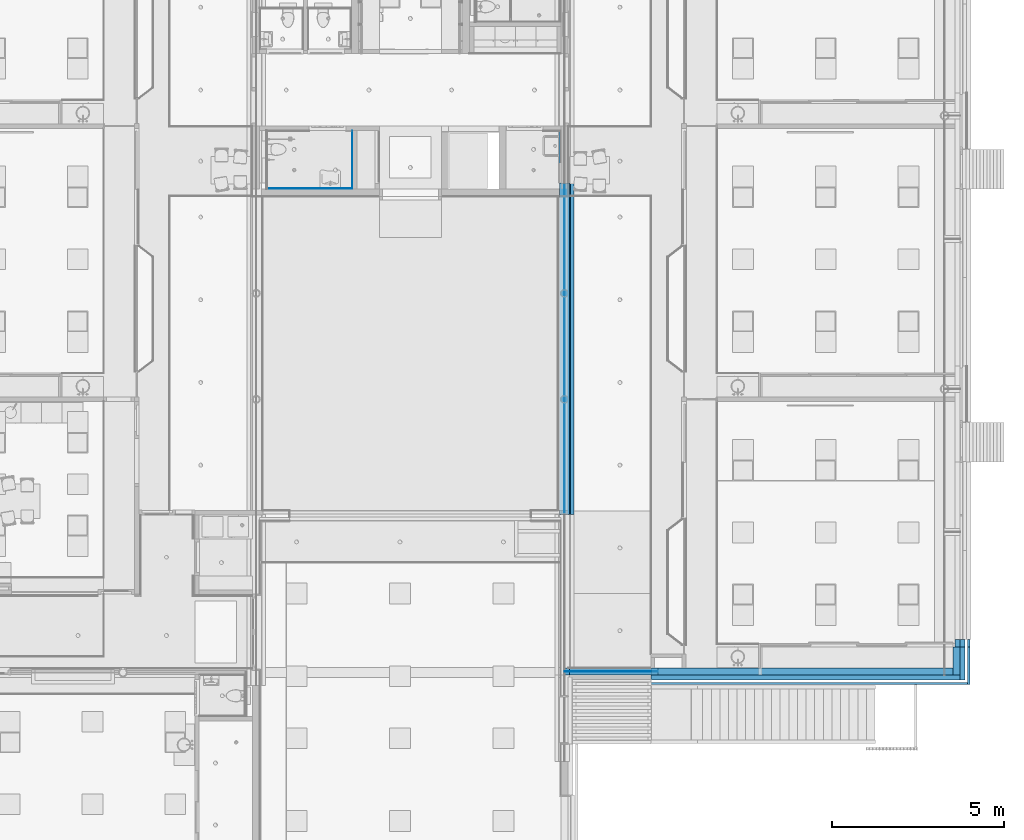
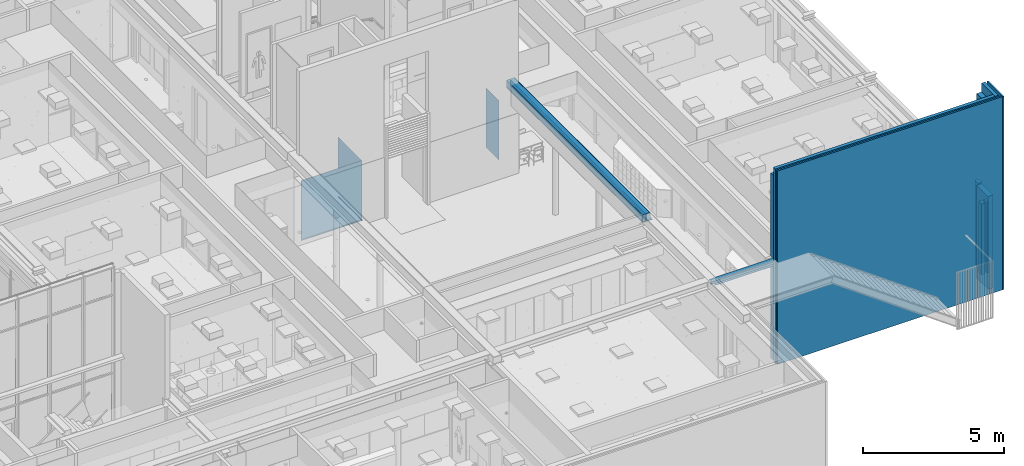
# One storey, part 117 of 347: 24 building element parts, 1 opening, 8 elements without a shape of their own.
"""IFC2X3 building model written with IfcOpenShell, lengths in millimetres."""

from ifc_helpers import new_model, entity, si_unit, converted_unit, derived_unit, money_unit, direction, frame, origin_with_axes, place, context, subcontext, project, spatial, faceted_brep, material, type_object, element, aggregate, save


model = new_model("IFC2X3")

# Units and contexts
model_context = context("Model", 3, precision=0.01, world=origin_with_axes(), true_north=direction((0.0, 1.0)))
plan_context = context("Plan", 3, precision=0.01, world=origin_with_axes(), true_north=direction((0.0, 1.0)))
body_context = subcontext(model_context, "Body", "Model", "MODEL_VIEW")
ifc_project = project(units=[si_unit("LENGTHUNIT", "METRE", prefix="MILLI"), si_unit("AREAUNIT", "SQUARE_METRE"), si_unit("VOLUMEUNIT", "CUBIC_METRE"), converted_unit("PLANEANGLEUNIT", "DEGREE", entity("IfcPlaneAngleMeasure", 0.0174532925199), si_unit("PLANEANGLEUNIT", "RADIAN"), dimensions=[0, 0, 0, 0, 0, 0, 0]), money_unit("EUR"), converted_unit("TIMEUNIT", "Year", entity("IfcTimeMeasure", 31556926.0), si_unit("TIMEUNIT", "SECOND"), dimensions=[0, 0, 1, 0, 0, 0, 0]), si_unit("MASSUNIT", "GRAM", prefix="KILO"), si_unit("THERMODYNAMICTEMPERATUREUNIT", "DEGREE_CELSIUS"), si_unit("LUMINOUSINTENSITYUNIT", "LUMEN"), si_unit("ENERGYUNIT", "JOULE", prefix="MEGA"), derived_unit("THERMALCONDUCTANCEUNIT", [(si_unit("POWERUNIT", "WATT"), 1), (si_unit("LENGTHUNIT", "METRE"), -1), (si_unit("THERMODYNAMICTEMPERATUREUNIT", "KELVIN"), -1)]), derived_unit("SPECIFICHEATCAPACITYUNIT", [(si_unit("ENERGYUNIT", "JOULE"), 1), (si_unit("MASSUNIT", "GRAM", prefix="KILO"), -1), (si_unit("THERMODYNAMICTEMPERATUREUNIT", "KELVIN"), -1)]), derived_unit("MASSDENSITYUNIT", [(si_unit("MASSUNIT", "GRAM", prefix="KILO"), 1), (si_unit("VOLUMEUNIT", "CUBIC_METRE"), -1)])], contexts=[model_context, plan_context])

# Site, building, storey
site_placement = place(None, origin_with_axes())
site = spatial("IfcSite", under=ifc_project, at=site_placement, Name="Site", CompositionType="ELEMENT")
building_placement = place(site_placement, origin_with_axes())
building = spatial("IfcBuilding", under=site, at=building_placement, Name="Naam gebouw", CompositionType="ELEMENT")
storey_placement = place(building_placement, origin_with_axes())
storey = spatial("IfcBuildingStorey", under=building, at=storey_placement, Name="begane grond", CompositionType="ELEMENT", Elevation=0.0)

# Proxy, building element parts
building_element_proxy_type = type_object("IfcBuildingElementProxyType", Name="wandtegels 150x300 2600+ 10 x 2600", PredefinedType="NOTDEFINED")
proxy_1_placement = place(storey_placement, frame((38385.0, 26170.0, 0.0), z_axis=(0.0, 0.0, 1.0), x_axis=(-1.0, 0.0, 0.0)))
proxy_1 = element("IfcBuildingElementProxy", 1, at=proxy_1_placement, inside=storey, type_object=building_element_proxy_type, Name="42_50 wandtegels keramisch")
ifc_material_1 = material(Name="48 vloeivloer Bolidt")
building_element_part_1_placement = place(proxy_1_placement, origin_with_axes())
building_element_part_1 = element("IfcBuildingElementPart", 2, at=building_element_part_1_placement, material=ifc_material_1, Name="48 vloeivloer Bolidt", context=body_context, shape_type="Brep", body=[
    faceted_brep([(-8.00001490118, 10.0000089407, 50.0000059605), (-8.00001490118, 8.00001490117, 50.0000059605), (2469.99999702, 8.00001490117, 50.0000059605), (2469.99999702, 10.0000089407, 50.0000059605), (-8.00001490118, 8.00001490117, 0.0), (-8.00001490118, 10.0000089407, 0.0), (2469.99999702, 8.00001490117, 0.0), (2469.99999702, 10.0000089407, 0.0)], [[[0, 1, 2, 3]], [[4, 1, 0, 5]], [[1, 4, 6, 2]], [[3, 2, 6, 7]], [[5, 0, 3, 7]], [[4, 5, 7, 6]]]),
])
ifc_material_2 = material(Name="Tegels - Wand")
building_element_part_2_placement = place(proxy_1_placement, origin_with_axes())
building_element_part_2 = element("IfcBuildingElementPart", 3, at=building_element_part_2_placement, material=ifc_material_2, Name="Tegels - Wand", context=body_context, shape_type="Brep", body=[
    faceted_brep([(0.0, 10.0, 2600.0), (0.0, 0.0, 2600.0), (2469.99999702, 0.0, 2600.0), (2469.99999702, 10.0, 2600.0), (0.0, 0.0, 50.0), (0.0, 10.0, 50.0), (0.0, 8.00001490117, 50.0), (2469.99999702, 0.0, 50.0000059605), (2469.99999702, 10.0, 50.0000059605), (2469.99999702, 8.00001490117, 50.0000059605)], [[[0, 1, 2, 3]], [[4, 1, 0, 5, 6]], [[1, 4, 7, 2]], [[8, 3, 2, 7, 9]], [[5, 0, 3, 8]], [[6, 5, 8, 9]], [[4, 6, 9, 7]]]),
])
aggregate(proxy_1, [building_element_part_1, building_element_part_2])

# Proxy, building element part
proxy_2_placement = place(storey_placement, frame((44425.0, 27830.0, 0.0), z_axis=(0.0, 0.0, 1.0), x_axis=(0.0, -1.0, 0.0)))
proxy_2 = element("IfcBuildingElementProxy", 4, at=proxy_2_placement, inside=storey, type_object=building_element_proxy_type, Name="42_52 wandtegels keramisch")
building_element_part_3_placement = place(proxy_2_placement, origin_with_axes())
building_element_part_3 = element("IfcBuildingElementPart", 5, at=building_element_part_3_placement, material=ifc_material_2, Name="Tegels - Wand", context=body_context, shape_type="Brep", body=[
    faceted_brep([(0.0, 10.0, 50.0), (0.0, 10.0, 2600.0), (900.0, 10.0, 2600.0), (900.0, 10.0, 50.0), (0.0, 0.0, 2600.0), (0.0, 8.00001490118, 50.0), (0.0, 0.0, 50.0), (900.0, 0.0, 2600.0), (900.0, 0.0, 50.0), (900.0, 8.00001490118, 50.0000059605)], [[[0, 1, 2, 3]], [[4, 1, 0, 5, 6]], [[1, 4, 7, 2]], [[3, 2, 7, 8, 9]], [[5, 0, 3, 9]], [[6, 5, 9, 8]], [[4, 6, 8, 7]]]),
])
aggregate(proxy_2, [building_element_part_3])

# Proxy, building element parts
proxy_3_placement = place(storey_placement, frame((38385.0, 27830.0, 0.0), z_axis=(0.0, 0.0, 1.0), x_axis=(0.0, -1.0, 0.0)))
proxy_3 = element("IfcBuildingElementProxy", 6, at=proxy_3_placement, inside=storey, type_object=building_element_proxy_type, Name="42_49 wandtegels keramisch")
building_element_part_4_placement = place(proxy_3_placement, origin_with_axes())
building_element_part_4 = element("IfcBuildingElementPart", 7, at=building_element_part_4_placement, material=ifc_material_1, Name="48 vloeivloer Bolidt", context=body_context, shape_type="Brep", body=[
    faceted_brep([(-9.99999701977, 10.0000089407, 0.0), (-9.99999701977, 10.0000089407, 50.0000059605), (1669.99999702, 10.0000089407, 50.0000059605), (1669.99999702, 10.0000089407, 0.0), (-9.99999701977, 8.00001490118, 0.0), (-9.99999701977, 8.00001490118, 50.0000059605), (1669.99999702, 8.00001490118, 50.0000059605), (1669.99999702, 8.00001490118, 0.0)], [[[0, 1, 2, 3]], [[1, 0, 4, 5]], [[1, 5, 6, 2]], [[3, 2, 6, 7]], [[4, 0, 3, 7]], [[5, 4, 7, 6]]]),
])
building_element_part_5_placement = place(proxy_3_placement, origin_with_axes())
building_element_part_5 = element("IfcBuildingElementPart", 8, at=building_element_part_5_placement, material=ifc_material_2, Name="Tegels - Wand", context=body_context, shape_type="Brep", body=[
    faceted_brep([(-9.99999701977, 10.0, 50.0000059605), (-9.99999701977, 10.0, 2600.0), (1669.99999702, 10.0, 2600.0), (1669.99999702, 10.0, 50.0000059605), (-9.99999701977, 0.0, 2600.0), (-9.99999701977, 8.00001490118, 50.0000059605), (-9.99999701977, 0.0, 50.0000059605), (1669.99999702, 0.0, 2600.0), (1669.99999702, 0.0, 50.0000059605), (1669.99999702, 8.00001490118, 50.0000059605)], [[[0, 1, 2, 3]], [[4, 1, 0, 5, 6]], [[1, 4, 7, 2]], [[3, 2, 7, 8, 9]], [[5, 0, 3, 9]], [[6, 5, 9, 8]], [[4, 6, 8, 7]]]),
])
aggregate(proxy_3, [building_element_part_4, building_element_part_5])

# Beam, building element parts
beam_type_1 = type_object("IfcBeamType", Name="28 SFBHE320B/S355 (pet) 425 x 340", PredefinedType="BEAM")
beam_1_placement = place(storey_placement, frame((44545.0, 26319.9999672, 3560.0), z_axis=(0.0, 0.0, 1.0), x_axis=(-1.0, 0.0, 0.0)))
beam_1 = element("IfcBeam", 9, at=beam_1_placement, inside=storey, type_object=beam_type_1, Name="28_Balk-x", ObjectType="BEAM")
ifc_material_3 = material(Name="Beton gewapend C vloer")
building_element_part_6_placement = place(beam_1_placement, origin_with_axes())
building_element_part_6 = element("IfcBuildingElementPart", 10, at=building_element_part_6_placement, material=ifc_material_3, Name="Beton gewapend C vloer", context=body_context, shape_type="Brep", body=[
    faceted_brep([(5.74999830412, 9609.99933451, 20.5000013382), (150.0, 9609.99933451, 20.5000013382), (150.0, 0.0, 20.5000013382), (5.74999830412, 0.0, 20.5000013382), (5.74999830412, 9609.99933451, 299.500002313), (150.0, 9609.99933451, 299.500002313), (150.0, 0.0, 299.500002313), (5.74999830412, 0.0, 299.500002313)], [[[0, 1, 2, 3]], [[0, 4, 5, 1]], [[1, 5, 6, 2]], [[3, 2, 6, 7]], [[4, 0, 3, 7]], [[5, 4, 7, 6]]]),
    faceted_brep([(-170.000001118, 9609.99933451, 320.0), (-170.000001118, 9609.99933451, -1.11758824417e-06), (-170.000001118, 0.0, -1.11758824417e-06), (-170.000001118, 0.0, 320.0), (-150.000001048, 9609.99933451, 320.0), (-150.000001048, 9609.99933451, 299.500002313), (-5.74999935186, 9609.99933451, 299.500002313), (-5.74999935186, 9609.99933451, 20.5000013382), (-150.000001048, 9609.99933451, 20.5000013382), (-150.000001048, 9609.99933451, -1.11758824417e-06), (-150.000001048, 0.0, -1.11758824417e-06), (-150.000001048, 0.0, 20.5000013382), (-5.74999935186, 0.0, 20.5000013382), (-5.74999935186, 0.0, 299.500002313), (-150.000001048, 0.0, 299.500002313), (-150.000001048, 0.0, 320.0)], [[[0, 1, 2, 3]], [[0, 4, 5, 6, 7, 8, 9, 1]], [[1, 9, 10, 2]], [[3, 2, 10, 11, 12, 13, 14, 15]], [[4, 0, 3, 15]], [[5, 4, 15, 14]], [[6, 5, 14, 13]], [[7, 6, 13, 12]], [[8, 7, 12, 11]], [[9, 8, 11, 10]]]),
])
ifc_material_4 = material(Name="Metaal - Staal C")
building_element_part_7_placement = place(beam_1_placement, origin_with_axes())
building_element_part_7 = element("IfcBuildingElementPart", 11, at=building_element_part_7_placement, material=ifc_material_4, Name="Metaal - Staal C", context=body_context, shape_type="Brep", body=[
    faceted_brep([(-150.000002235, 9609.99933451, 20.4999990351), (-150.000002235, 9609.99933451, -1.11758824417e-06), (-150.000002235, 0.0, -1.11758824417e-06), (-150.000002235, 0.0, 20.4999990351), (150.0, 9609.99933451, 20.4999990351), (150.0, 9609.99933451, -1.11758824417e-06), (150.0, 0.0, -1.11758824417e-06), (150.0, 0.0, 20.4999990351)], [[[0, 1, 2, 3]], [[0, 4, 5, 1]], [[1, 5, 6, 2]], [[3, 2, 6, 7]], [[4, 0, 3, 7]], [[5, 4, 7, 6]]]),
])
building_element_part_8_placement = place(beam_1_placement, origin_with_axes())
building_element_part_8 = element("IfcBuildingElementPart", 12, at=building_element_part_8_placement, material=ifc_material_4, Name="Metaal - Staal C", context=body_context, shape_type="Brep", body=[
    faceted_brep([(-5.75, 9609.99933451, 299.5), (-5.75, 9609.99933451, 20.5), (-5.75, 0.0, 20.5), (-5.75, 0.0, 299.5), (5.75, 9609.99933451, 299.5), (5.75, 9609.99933451, 20.5), (5.75, 0.0, 20.5), (5.75, 0.0, 299.5)], [[[0, 1, 2, 3]], [[0, 4, 5, 1]], [[1, 5, 6, 2]], [[3, 2, 6, 7]], [[4, 0, 3, 7]], [[5, 4, 7, 6]]]),
])
building_element_part_9_placement = place(beam_1_placement, origin_with_axes())
building_element_part_9 = element("IfcBuildingElementPart", 13, at=building_element_part_9_placement, material=ifc_material_4, Name="Metaal - Staal C", context=body_context, shape_type="Brep", body=[
    faceted_brep([(-150.0, 9609.99933451, 320.0), (-150.0, 9609.99933451, 299.5), (-150.0, 0.0, 299.5), (-150.0, 0.0, 320.0), (150.0, 9609.99933451, 320.0), (150.0, 9609.99933451, 299.5), (150.0, 0.0, 299.5), (150.0, 0.0, 320.0)], [[[0, 1, 2, 3]], [[0, 4, 5, 1]], [[1, 5, 6, 2]], [[3, 2, 6, 7]], [[4, 0, 3, 7]], [[5, 4, 7, 6]]]),
])
building_element_part_10_placement = place(beam_1_placement, origin_with_axes())
building_element_part_10 = element("IfcBuildingElementPart", 14, at=building_element_part_10_placement, material=ifc_material_4, Name="Metaal - Staal C", context=body_context, shape_type="Brep", body=[
    faceted_brep([(-275.0, 9609.99933451, 0.0), (-275.0, 9609.99933451, -20.0), (-275.0, 0.0, -20.0), (-275.0, 0.0, 0.0), (-170.000001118, 9609.99933451, -1.11758824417e-06), (150.0, 9609.99933451, 0.0), (150.0, 9609.99933451, -20.0), (150.0, 0.0, -20.0), (150.0, 0.0, 0.0), (-170.000001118, 0.0, -1.11758824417e-06)], [[[0, 1, 2, 3]], [[0, 4, 5, 6, 1]], [[1, 6, 7, 2]], [[3, 2, 7, 8, 9]], [[4, 0, 3, 9]], [[5, 4, 9, 8]], [[6, 5, 8, 7]]]),
])
aggregate(beam_1, [building_element_part_6, building_element_part_7, building_element_part_8, building_element_part_9, building_element_part_10])

# Wall, building element parts
wall_type_1 = type_object("IfcWallType", Name="22 beg mets + verd (beton) 490 x 8410", PredefinedType="NOTDEFINED")
wall_1_placement = place(storey_placement, frame((55874.9999865, 12860.0, -60.0), z_axis=(0.0, 0.0, 1.0), x_axis=(0.0, -1.0, 0.0)))
wall_1 = element("IfcWall", 15, at=wall_1_placement, inside=storey, type_object=wall_type_1, Name="21_21 betonwand")
ifc_material_5 = material(Name="Steen - Baksteen")
building_element_part_11_placement = place(wall_1_placement, origin_with_axes())
building_element_part_11 = element("IfcBuildingElementPart", 16, at=building_element_part_11_placement, material=ifc_material_5, Name="Steen - Baksteen", context=body_context, shape_type="Brep", body=[
    faceted_brep([(1089.99996632, 360.000087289, -450.000001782), (1089.99996632, 429.999991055, -450.000001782), (1090.00011071, 430.00008173, 7899.99977968), (1090.00011071, 360.000087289, 7899.99977968), (0.0, 360.000087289, -450.000001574), (0.0, 429.999991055, -450.000001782), (0.0, 430.00008173, 7899.99977968), (0.0, 360.000087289, 7899.99977968)], [[[0, 1, 2, 3]], [[1, 0, 4, 5]], [[1, 5, 6, 2]], [[6, 7, 3, 2]], [[0, 3, 7, 4]], [[5, 4, 7, 6]]]),
])
ifc_material_6 = material(Name="Isolatie - Kunststof hard")
building_element_part_12_placement = place(wall_1_placement, origin_with_axes())
building_element_part_12 = element("IfcBuildingElementPart", 17, at=building_element_part_12_placement, material=ifc_material_6, Name="Isolatie - Kunststof hard", context=body_context, shape_type="Brep", body=[
    faceted_brep([(0.0, 150.0, 7899.99977968), (949.999904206, 150.0, 7899.99977968), (949.999904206, 290.0, 7899.99977968), (0.0, 290.0, 7899.99977968), (0.0, 150.000011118, 7519.99997098), (949.999904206, 150.000011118, 7519.99997098), (949.999904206, 290.0, -510.0), (949.999904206, 150.000011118, 3880.00000942), (949.999904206, 150.000011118, 3559.99999902), (949.999904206, 150.0, -510.0), (0.0, 290.0, -510.0), (0.0, 150.0, -510.0), (0.0, 150.000011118, 3559.99999902), (0.0, 150.000011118, 3880.00000942)], [[[0, 1, 2, 3]], [[4, 5, 1, 0]], [[6, 2, 1, 5, 7, 8, 9]], [[3, 2, 6, 10]], [[0, 3, 10, 11, 12, 13, 4]], [[13, 7, 5, 4]], [[12, 8, 7, 13]], [[11, 9, 8, 12]], [[10, 6, 9, 11]]]),
])
ifc_material_7 = material(Name="Beton gewapend prefab wand")
building_element_part_13_placement = place(wall_1_placement, origin_with_axes())
building_element_part_13 = element("IfcBuildingElementPart", 18, at=building_element_part_13_placement, material=ifc_material_7, Name="Beton gewapend prefab wand", context=body_context, shape_type="Brep", body=[
    faceted_brep([(809.999952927, -59.9999722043, -450.00000095), (809.999969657, 149.999994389, -450.00000095), (809.999963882, 150.000011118, 3559.99999902), (809.999963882, -59.9999722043, 3559.99999902), (0.0, -59.9999722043, -450.000000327), (0.0, 150.000011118, -450.00000095), (0.0, 150.000011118, 3559.99999902), (0.0, -59.9999722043, 3559.99999902)], [[[0, 1, 2, 3]], [[1, 0, 4, 5]], [[1, 5, 6, 2]], [[7, 3, 2, 6]], [[0, 3, 7, 4]], [[5, 4, 7, 6]]]),
])
building_element_part_14_placement = place(wall_1_placement, origin_with_axes())
building_element_part_14 = element("IfcBuildingElementPart", 19, at=building_element_part_14_placement, material=ifc_material_7, Name="Beton gewapend prefab wand", context=body_context, shape_type="Brep", body=[
    faceted_brep([(604.99996636, 150.000013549, 3880.00000942), (604.99996636, 150.000013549, 3940.0), (0.0, 150.000013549, 3940.0), (0.0, 150.000011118, 7519.99997098), (809.999963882, 150.000011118, 7519.99997098), (809.999963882, 150.000011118, 3880.00000942), (604.99996636, -59.9999722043, 3880.00000942), (604.99996636, -59.9972929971, 3940.0), (0.0, -59.9972929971, 3940.0), (0.0, -59.8374336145, 7519.99997098), (809.999963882, -59.8374336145, 7519.99997098), (809.999963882, -59.9999722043, 3880.00000942)], [[[0, 1, 2, 3, 4, 5]], [[1, 0, 6, 7]], [[8, 2, 1, 7]], [[2, 8, 9, 3]], [[9, 10, 4, 3]], [[11, 5, 4, 10]], [[6, 0, 5, 11]], [[7, 6, 11, 10, 9, 8]]]),
])
aggregate(wall_1, [building_element_part_11, building_element_part_12, building_element_part_13, building_element_part_14])

wall_2_placement = place(storey_placement, frame((55874.9999865, 12200.0000472, -60.0), z_axis=(0.0, 0.0, 1.0), x_axis=(-1.0, 0.0, 0.0)))
wall_2 = element("IfcWall", 20, at=wall_2_placement, inside=storey, type_object=wall_type_1, Name="21_21 betonwand")
building_element_part_15_placement = place(wall_2_placement, origin_with_axes())
building_element_part_15 = element("IfcBuildingElementPart", 21, at=building_element_part_15_placement, material=ifc_material_5, Name="Steen - Baksteen", context=body_context, shape_type="Brep", body=[
    faceted_brep([(-360.000087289, 430.00001356, -450.000001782), (-360.000076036, 360.000098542, -450.000001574), (-360.000087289, 360.000087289, 7899.99977968), (-360.000087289, 430.000157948, 7899.99977968), (8819.99998645, 360.000087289, -450.000001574), (8819.99998645, 430.00001356, -450.000001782), (8819.99998645, 360.000087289, 7899.99977968), (8819.99998645, 430.00008173, 7899.99977968)], [[[0, 1, 2, 3]], [[4, 1, 0, 5]], [[1, 4, 6, 2]], [[7, 3, 2, 6]], [[5, 0, 3, 7]], [[4, 5, 7, 6]]]),
])
building_element_part_16_placement = place(wall_2_placement, origin_with_axes())
building_element_part_16 = element("IfcBuildingElementPart", 22, at=building_element_part_16_placement, material=ifc_material_6, Name="Isolatie - Kunststof hard", context=body_context, shape_type="Brep", body=[
    faceted_brep([(8819.99998645, 290.0, 7899.99977968), (-150.0, 290.0, 7899.99977968), (-150.0, 150.0, 7899.99977968), (8819.99998645, 150.0, 7899.99977968), (-150.000011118, 290.000011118, 3559.99999902), (8819.99998645, 290.0, -510.0), (-150.0, 290.0, -510.0), (-150.000011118, 150.000011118, 3880.00000942), (-150.000011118, 150.000011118, 7519.99997098), (-150.000011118, 150.000011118, 3559.99999902), (8819.99998645, 150.000011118, 7519.99997098), (8819.99998645, 150.000011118, 3880.00000942), (8819.99998645, 150.000011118, 3559.99999902), (8819.99998645, 150.0, -510.0), (-150.0, 150.0, -510.0)], [[[0, 1, 2, 3]], [[4, 1, 0, 5, 6]], [[7, 8, 2, 1, 4, 9]], [[3, 2, 8, 10]], [[10, 11, 12, 13, 5, 0, 3]], [[13, 14, 6, 5]], [[14, 9, 4, 6]], [[10, 8, 7, 11]], [[11, 7, 9, 12]], [[12, 9, 14, 13]]]),
])
building_element_part_17_placement = place(wall_2_placement, origin_with_axes())
building_element_part_17 = element("IfcBuildingElementPart", 23, at=building_element_part_17_placement, material=ifc_material_7, Name="Beton gewapend prefab wand", context=body_context, shape_type="Brep", body=[
    faceted_brep([(59.9999722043, 150.000011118, -450.00000095), (59.9999834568, -59.9999609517, -450.000000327), (59.9999722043, -59.9999722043, 3559.99999902), (59.9999722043, 150.000011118, 3559.99999902), (8819.99998645, -59.9999722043, -450.000000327), (8819.99998645, 150.000011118, -450.00000095), (8819.99998645, -59.9999722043, 3559.99999902), (8819.99998645, 150.000011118, 3559.99999902)], [[[0, 1, 2, 3]], [[4, 1, 0, 5]], [[1, 4, 6, 2]], [[7, 3, 2, 6]], [[5, 0, 3, 7]], [[4, 5, 7, 6]]]),
])
building_element_part_18_placement = place(wall_2_placement, origin_with_axes())
building_element_part_18 = element("IfcBuildingElementPart", 24, at=building_element_part_18_placement, material=ifc_material_7, Name="Beton gewapend prefab wand", context=body_context, shape_type="Brep", body=[
    faceted_brep([(59.9999722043, -54.9999864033, 3880.00001079), (59.9972929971, -54.9999864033, 3940.0), (59.9972959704, -59.9972959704, 3940.0), (59.8374336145, -59.8374336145, 7519.99997098), (59.8374336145, 150.000011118, 7519.99997098), (59.9999722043, 150.000011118, 3880.00000942), (209.99998645, -54.9999864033, 3880.00000656), (209.99998645, -54.9999864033, 3940.0), (209.99998645, -59.9972964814, 3940.0), (209.99998645, 150.000013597, 3940.0), (8819.99998645, 150.00001356, 3940.0), (8819.99998645, -59.9972929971, 3940.0), (8819.99998645, -59.8374336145, 7519.99997098), (8819.99998645, 150.000011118, 7519.99997098), (209.99998645, 150.000013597, 3880.00000942)], [[[0, 1, 2, 3, 4, 5]], [[1, 0, 6, 7]], [[8, 2, 1, 7, 9, 10, 11]], [[2, 8, 11, 12, 3]], [[13, 4, 3, 12]], [[10, 9, 14, 5, 4, 13]], [[6, 0, 5, 14]], [[7, 6, 14, 9]], [[10, 13, 12, 11]]]),
])
aggregate(wall_2, [building_element_part_15, building_element_part_16, building_element_part_17, building_element_part_18])

# Beam, building element parts
beam_type_2 = type_object("IfcBeamType", Name="28 HEB200 200 x 200", PredefinedType="BEAM")
beam_2_placement = place(storey_placement, frame((44545.0, 12155.0000336, 3560.0000006), z_axis=(0.0, 0.0, 1.0), x_axis=(0.0, -1.0, 0.0)))
beam_2 = element("IfcBeam", 25, at=beam_2_placement, inside=storey, type_object=beam_type_2, Name="28_Balk-x", ObjectType="BEAM")
building_element_part_19_placement = place(beam_2_placement, origin_with_axes())
building_element_part_19 = element("IfcBuildingElementPart", 26, at=building_element_part_19_placement, material=ifc_material_4, Name="Metaal - Staal C", context=body_context, shape_type="Brep", body=[
    faceted_brep([(-100.0, 5.75, 185.0), (-100.0, 5.75, 200.0), (-100.0, 2710.0, 200.0), (-100.0, 2710.0, 185.0), (100.0, 5.75, 200.0), (-4.5, 5.75, 185.0), (4.5, 5.75, 185.0), (100.0, 5.75, 185.0), (100.0, 2710.0, 200.0), (4.5, 2710.0, 185.0), (-4.5, 2710.0, 185.0), (100.0, 2710.0, 185.0)], [[[0, 1, 2, 3]], [[4, 1, 0, 5, 6, 7]], [[1, 4, 8, 2]], [[9, 10, 3, 2, 8, 11]], [[5, 0, 3, 10]], [[6, 5, 10, 9]], [[7, 6, 9, 11]], [[4, 7, 11, 8]]]),
])
building_element_part_20_placement = place(beam_2_placement, origin_with_axes())
building_element_part_20 = element("IfcBuildingElementPart", 27, at=building_element_part_20_placement, material=ifc_material_4, Name="Metaal - Staal C", context=body_context, shape_type="Brep", body=[
    faceted_brep([(-100.0, 150.0, -5.96047211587e-07), (-100.0, 150.0, 15.0), (-100.0, 2710.0, 15.0), (-100.0, 2710.0, 0.0), (-4.5, 150.0, 15.0), (100.0, 150.0, -5.96047211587e-07), (100.0, 150.0, 15.0), (4.5, 150.0, 15.0), (-4.5, 2710.0, 15.0), (100.0, 2710.0, 0.0), (4.5, 2710.0, 15.0), (100.0, 2710.0, 15.0)], [[[0, 1, 2, 3]], [[4, 1, 0, 5, 6, 7]], [[1, 4, 8, 2]], [[9, 3, 2, 8, 10, 11]], [[5, 0, 3, 9]], [[6, 5, 9, 11]], [[7, 6, 11, 10]], [[4, 7, 10, 8]]]),
])
building_element_part_21_placement = place(beam_2_placement, origin_with_axes())
building_element_part_21 = element("IfcBuildingElementPart", 28, at=building_element_part_21_placement, material=ifc_material_4, Name="Metaal - Staal C", context=body_context, shape_type="Brep", body=[
    faceted_brep([(-4.5, 5.75, 20.499999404), (-4.5, 5.75, 185.0), (-4.5, 2710.0, 185.0), (-4.5, 2710.0, 15.0), (-4.5, 150.0, 15.0), (-4.5, 150.0, 20.499999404), (4.5, 5.75, 185.0), (4.5, 5.75, 20.499999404), (4.5, 2710.0, 185.0), (4.5, 2710.0, 15.0), (4.5, 150.0, 15.0), (4.5, 150.0, 20.499999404)], [[[0, 1, 2, 3, 4, 5]], [[6, 1, 0, 7]], [[1, 6, 8, 2]], [[8, 9, 3, 2]], [[10, 4, 3, 9]], [[5, 4, 10, 11]], [[0, 5, 11, 7]], [[11, 10, 9, 8, 6, 7]]]),
])
aggregate(beam_2, [building_element_part_19, building_element_part_20, building_element_part_21])

# Wall, opening, building element parts
wall_type_2 = type_object("IfcWallType", Name="22 beg mets (2600+) 430 x 4010", PredefinedType="NOTDEFINED")
wall_3_placement = place(storey_placement, frame((55875.0000543, 12860.0, 0.0), z_axis=(0.0, 0.0, 1.0), x_axis=(0.0, 1.0, 0.0)))
wall_3 = element("IfcWall", 29, at=wall_3_placement, inside=storey, type_object=wall_type_2, Name="21_21 betonwand")
opening_placement = place(wall_3_placement, frame((2802.5, -3.24007487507e-09, 700.0), z_axis=(0.0, 0.0, 1.0), x_axis=(1.0, 0.0, 0.0)))
element("IfcOpeningElement", 30, at=opening_placement, cuts=wall_3, Name="31_-", context=body_context, shape_type="Brep", body=[
    faceted_brep([(2575.0, -860.000171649, 1900.0), (2575.0, -860.000171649, 0.0), (2575.0, -302.000081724, 0.0), (2575.0, -302.000081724, 1900.0), (-2575.0, -860.000171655, 1900.0), (-2575.0, -860.000171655, 0.0), (-2575.0, -302.00008173, 0.0), (-2575.0, -302.00008173, 1900.0)], [[[0, 1, 2, 3]], [[0, 4, 5, 1]], [[1, 5, 6, 2]], [[3, 2, 6, 7]], [[4, 0, 3, 7]], [[5, 4, 7, 6]]]),
    faceted_brep([(2575.0, 256.000008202, 0.0), (2575.0, 256.000008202, 1900.0), (2575.0, -302.000081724, 1900.0), (2575.0, -302.000081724, 0.0), (-2575.0, 256.000008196, 0.0), (-2575.0, 256.000008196, 1900.0), (-2575.0, -302.00008173, 1900.0), (-2575.0, -302.00008173, 0.0)], [[[0, 1, 2, 3]], [[0, 4, 5, 1]], [[1, 5, 6, 2]], [[3, 2, 6, 7]], [[4, 0, 3, 7]], [[5, 4, 7, 6]]]),
])
ifc_material_8 = material(Name="Steen - Kalkzandsteen C")
building_element_part_22_placement = place(wall_3_placement, origin_with_axes())
building_element_part_22 = element("IfcBuildingElementPart", 31, at=building_element_part_22_placement, material=ifc_material_8, Name="Steen - Kalkzandsteen C", context=body_context, shape_type="Brep", body=[
    faceted_brep([(1.7763568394e-10, -149.999923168, -70.0), (227.5, -149.999923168, -70.0), (227.5, -149.999932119, 700.0), (1.7763568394e-10, -149.99993212, 700.0), (227.5, 8.60226379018e-06, -70.0), (0.0, 8.60200088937e-06, -70.0), (227.5, 3.98910273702e-05, 700.0), (0.0, 3.98907644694e-05, 700.0)], [[[0, 1, 2, 3]], [[4, 1, 0, 5]], [[1, 4, 6, 2]], [[3, 2, 6, 7]], [[5, 0, 3, 7]], [[4, 5, 7, 6]]]),
    faceted_brep([(1.7763568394e-10, -149.99993212, 720.0), (227.5, -149.999932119, 720.0), (227.5, -149.999977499, 2609.99997109), (1.74082970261e-10, -149.999977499, 2609.99997109), (227.5, 3.98910273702e-05, 720.0), (0.0, 3.98907644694e-05, 720.0), (227.5, 8.19591150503e-06, 3560.0), (227.5, -149.999977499, 3560.0), (1.74082970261e-10, -149.999977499, 3560.0), (0.0, 8.19564860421e-06, 3560.0)], [[[0, 1, 2, 3]], [[4, 1, 0, 5]], [[1, 4, 6, 7, 2]], [[8, 3, 2, 7]], [[5, 0, 3, 8, 9]], [[4, 5, 9, 6]], [[9, 8, 7, 6]]]),
])
building_element_part_23_placement = place(wall_3_placement, origin_with_axes())
building_element_part_23 = element("IfcBuildingElementPart", 32, at=building_element_part_23_placement, material=ifc_material_6, Name="Isolatie - Kunststof hard", context=body_context, shape_type="Brep", body=[
    faceted_brep([(3.35731442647e-10, -290.0, 2610.0), (3.35731442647e-10, -290.0, -450.0), (227.5, -290.0, -450.0), (227.5, -290.0, 2610.0), (1.74082970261e-10, -149.999977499, -79.999987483), (1.74082970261e-10, -150.0, -450.0), (1.74082970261e-10, -150.0, 2610.0), (227.5, -150.0, -450.0), (227.5, -150.0, 2610.0), (227.5, -149.999977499, -79.999987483)], [[[0, 1, 2, 3]], [[4, 5, 1, 0, 6]], [[1, 5, 7, 2]], [[8, 3, 2, 7, 9]], [[6, 0, 3, 8]], [[5, 4, 9, 7]], [[4, 6, 8, 9]]]),
])
building_element_part_24_placement = place(wall_3_placement, origin_with_axes())
building_element_part_24 = element("IfcBuildingElementPart", 33, at=building_element_part_24_placement, material=ifc_material_5, Name="Steen - Baksteen", context=body_context, shape_type="Brep", body=[
    faceted_brep([(4.17443857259e-10, -360.000019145, 2610.0), (227.5, -360.000019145, 2610.0), (227.5, -360.000019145, -450.0), (4.17443857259e-10, -360.000019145, -450.0), (4.97379915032e-10, -430.00008173, 2610.0), (227.5, -430.00008173, 2610.0), (227.5, -430.00008173, -450.0), (4.97379915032e-10, -430.00008173, -450.0)], [[[0, 1, 2, 3]], [[4, 5, 1, 0]], [[2, 1, 5, 6]], [[3, 2, 6, 7]], [[4, 0, 3, 7]], [[7, 6, 5, 4]]]),
])
aggregate(wall_3, [building_element_part_22, building_element_part_23, building_element_part_24])

save(model, "model.ifc")
